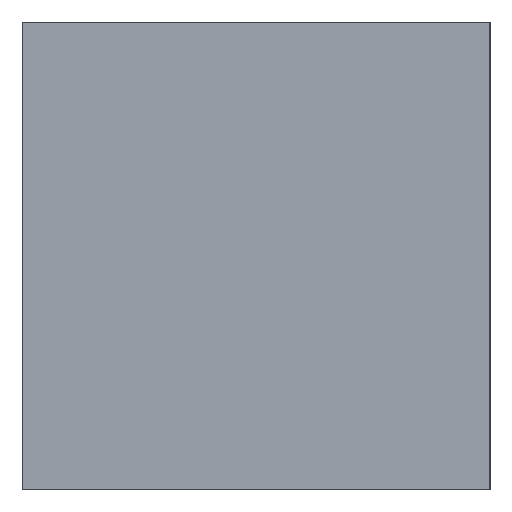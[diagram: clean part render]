
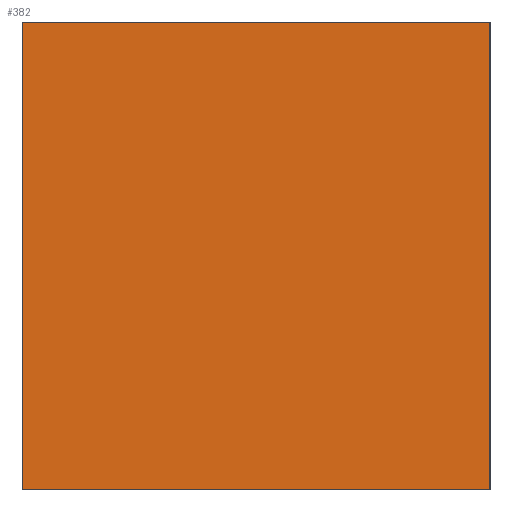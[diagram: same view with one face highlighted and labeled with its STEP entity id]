
A CAD part, left-side view. The second image highlights one B-rep face of the part: STEP entity #382.
In plain terms, the highlighted planar face has unit normal (-1, 0, 0).
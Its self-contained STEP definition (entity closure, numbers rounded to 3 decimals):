
#127=CARTESIAN_POINT('Vertex',(-36.,-10.,0.)) ;
#130=CARTESIAN_POINT('Line Origine',(-36.,0.,0.)) ;
#134=CARTESIAN_POINT('Vertex',(-36.,10.,0.)) ;
#200=CARTESIAN_POINT('Vertex',(-36.,10.,20.)) ;
#203=CARTESIAN_POINT('Line Origine',(-36.,0.,20.)) ;
#207=CARTESIAN_POINT('Vertex',(-36.,-10.,20.)) ;
#354=CARTESIAN_POINT('Line Origine',(-36.,-10.,10.)) ;
#366=CARTESIAN_POINT('Axis2P3D Location',(-36.,-10.,0.)) ;
#371=CARTESIAN_POINT('Line Origine',(-36.,10.,10.)) ;
#131=DIRECTION('Vector Direction',(0.,1.,0.)) ;
#204=DIRECTION('Vector Direction',(0.,1.,0.)) ;
#355=DIRECTION('Vector Direction',(0.,0.,1.)) ;
#367=DIRECTION('Axis2P3D Direction',(1.,0.,0.)) ;
#368=DIRECTION('Axis2P3D XDirection',(0.,1.,0.)) ;
#372=DIRECTION('Vector Direction',(0.,0.,1.)) ;
#369=AXIS2_PLACEMENT_3D('Plane Axis2P3D',#366,#367,#368) ;
#377=ORIENTED_EDGE('',*,*,#375,.F.) ;
#378=ORIENTED_EDGE('',*,*,#136,.T.) ;
#379=ORIENTED_EDGE('',*,*,#358,.T.) ;
#380=ORIENTED_EDGE('',*,*,#209,.F.) ;
#132=VECTOR('Line Direction',#131,1.) ;
#205=VECTOR('Line Direction',#204,1.) ;
#356=VECTOR('Line Direction',#355,1.) ;
#373=VECTOR('Line Direction',#372,1.) ;
#382=ADVANCED_FACE('\X2\96F64EF651E04F554F53\X0\',(#381),#370,.F.) ;
#136=EDGE_CURVE('',#135,#128,#133,.F.) ;
#209=EDGE_CURVE('',#201,#208,#206,.F.) ;
#358=EDGE_CURVE('',#128,#208,#357,.T.) ;
#375=EDGE_CURVE('',#135,#201,#374,.T.) ;
#376=EDGE_LOOP('',(#377,#378,#379,#380)) ;
#381=FACE_OUTER_BOUND('',#376,.T.) ;
#133=LINE('Line',#130,#132) ;
#206=LINE('Line',#203,#205) ;
#357=LINE('Line',#354,#356) ;
#374=LINE('Line',#371,#373) ;
#370=PLANE('Plane',#369) ;
#128=VERTEX_POINT('',#127) ;
#135=VERTEX_POINT('',#134) ;
#201=VERTEX_POINT('',#200) ;
#208=VERTEX_POINT('',#207) ;
